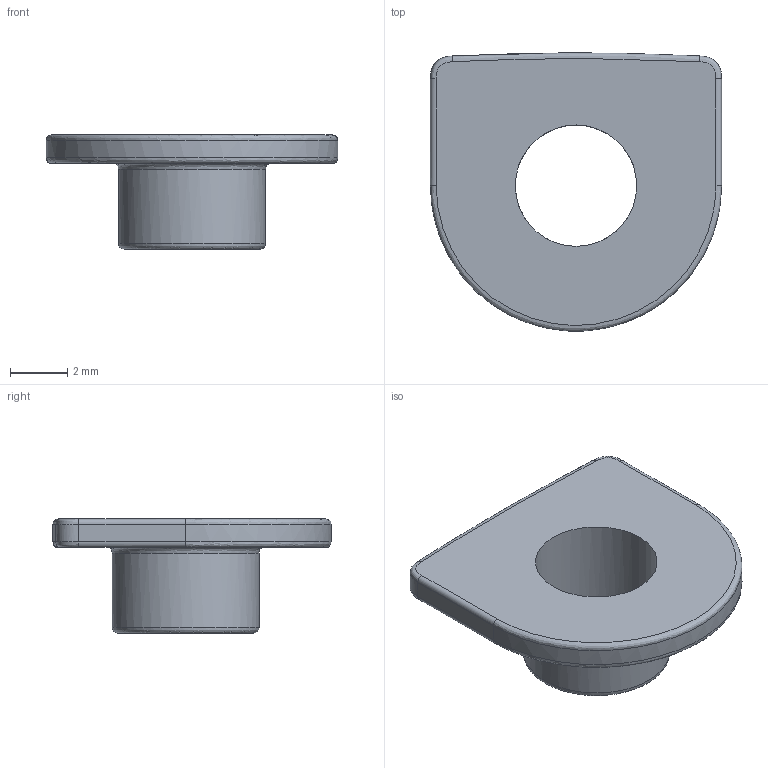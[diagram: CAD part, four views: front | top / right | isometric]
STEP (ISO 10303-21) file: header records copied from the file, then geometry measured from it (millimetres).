
FILE_DESCRIPTION(('STEP AP242 Edition 2','STEP AP242 Edition 2''CAx-IF Rec.Pracs.---Representation and Presentation of Product Manufacturing Information (PMI)---4.0---2014-10-13','STEP AP242 Edition 2''CAx-IF Rec.Pracs.---Representation and Presentation of Product Manufacturing Information (PMI)---4.0---2014-10-13''CAx-IF Rec.Pracs.---3D Tessellated Geometry---0.4---2014-09-14','STEP AP242 Edition 2''CAx-IF Rec.Pracs.---Representation and Presentation of Product Manufacturing Information (PMI)---4.0---2014-10-13''CAx-IF Rec.Pracs.---3D Tessellated Geometry---0.4---2014-09-14''2;1','STEP AP242 Edition 2''CAx-IF Rec.Pracs.---Representation and Presentation of Product Manufacturing Information (PMI)---4.0---2014-10-13''CAx-IF Rec.Pracs.---3D Tessellated Geometry---0.4---2014-09-14''2;1''CAx-IF Rec.Pracs.---User Defined Attributes---1.5---2016-08-15'),'2;1');
FILE_NAME('/vol/tmp/translate-3516306497556947253/Part Studio 1 - screwGasket.step','2026-03-10T09:27:56',(''),(''),'ST-DEVELOPER v20','ONSHAPE BY PTC INC, 1.211',' ');
FILE_SCHEMA(('AP242_MANAGED_MODEL_BASED_3D_ENGINEERING_MIM_LF { 1 0 10303 442 3 1 4 }'));
Length unit declared in the file: metre
Products named in the file (1): screwGasket
Bounding box: 10.2 x 9.74 x 4 mm (x, y, z)
Volume: 92.8 mm3; surface area: 274.7 mm2
Topology: 1 solids, 1 shells, 26 faces, 54 edges, 31 vertices
Faces by surface type: bspline 17, plane 5, cylinder 4
Full cylindrical faces by diameter (mm): 4.25 x1, 5.15 x1
Entity records: 1136 total; most frequent: CARTESIAN_POINT 728, ORIENTED_EDGE 98, EDGE_CURVE 49, B_SPLINE_CURVE_WITH_KNOTS 46, EDGE_LOOP 34, FACE_BOUND 34, VERTEX_POINT 31, ADVANCED_FACE 26
